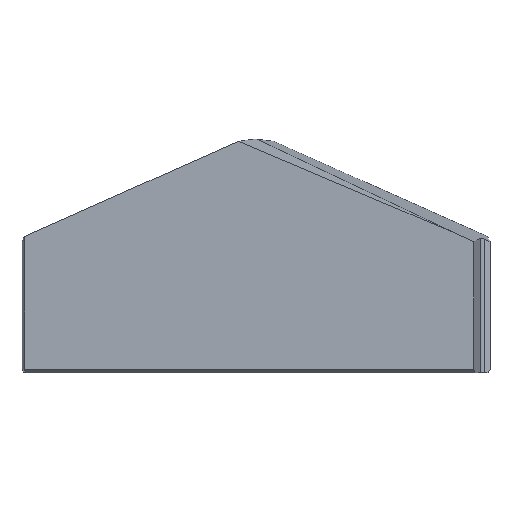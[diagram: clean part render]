
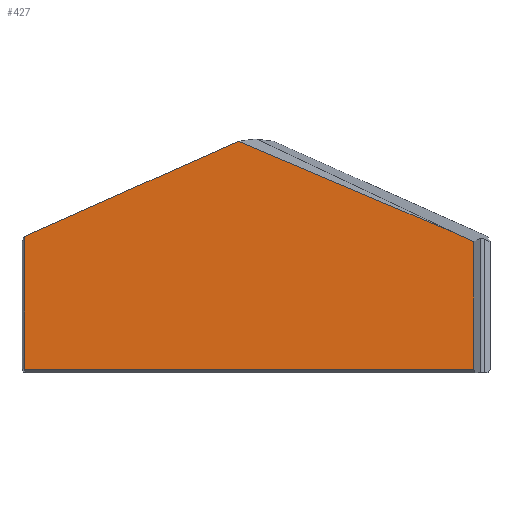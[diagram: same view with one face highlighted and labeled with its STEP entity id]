
A CAD part, top view. The second image highlights one B-rep face of the part: STEP entity #427.
In plain terms, the highlighted planar face has unit normal (0, 0, 1).
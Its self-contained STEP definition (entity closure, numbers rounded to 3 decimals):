
#5 = LINE ( 'NONE', #556, #623 ) ;
#12 = VECTOR ( 'NONE', #320, 1000. ) ;
#13 = CARTESIAN_POINT ( 'NONE',  ( 0., 0., 6.4 ) ) ;
#16 = EDGE_CURVE ( 'NONE', #131, #356, #68, .T. ) ;
#22 = DIRECTION ( 'NONE',  ( -0.914, 0.407, 0. ) ) ;
#30 = VERTEX_POINT ( 'NONE', #221 ) ;
#31 = VERTEX_POINT ( 'NONE', #183 ) ;
#38 = CARTESIAN_POINT ( 'NONE',  ( -20.39, 0.3, 6.4 ) ) ;
#39 = VERTEX_POINT ( 'NONE', #425 ) ;
#46 = DIRECTION ( 'NONE',  ( 1., 0., 0. ) ) ;
#60 = DIRECTION ( 'NONE',  ( 0., 0., 1. ) ) ;
#68 = LINE ( 'NONE', #631, #207 ) ;
#71 = EDGE_CURVE ( 'NONE', #39, #165, #418, .T. ) ;
#81 = ORIENTED_EDGE ( 'NONE', *, *, #16, .F. ) ;
#99 = LINE ( 'NONE', #594, #200 ) ;
#100 = PLANE ( 'NONE',  #504 ) ;
#104 = CARTESIAN_POINT ( 'NONE',  ( 19.19, 0., 6.4 ) ) ;
#127 = EDGE_CURVE ( 'NONE', #165, #356, #135, .T. ) ;
#131 = VERTEX_POINT ( 'NONE', #440 ) ;
#135 = LINE ( 'NONE', #603, #235 ) ;
#141 = ORIENTED_EDGE ( 'NONE', *, *, #383, .T. ) ;
#146 = EDGE_CURVE ( 'NONE', #452, #39, #5, .T. ) ;
#165 = VERTEX_POINT ( 'NONE', #610 ) ;
#176 = ORIENTED_EDGE ( 'NONE', *, *, #414, .T. ) ;
#183 = CARTESIAN_POINT ( 'NONE',  ( -20.384, 0.289, 6.4 ) ) ;
#191 = ORIENTED_EDGE ( 'NONE', *, *, #364, .T. ) ;
#200 = VECTOR ( 'NONE', #46, 1000. ) ;
#207 = VECTOR ( 'NONE', #474, 1000. ) ;
#209 = B_SPLINE_CURVE_WITH_KNOTS ( 'NONE', 3,
 ( #38, #628, #462, #465 ),
 .UNSPECIFIED., .F., .F.,
 ( 4, 4 ),
 ( 0., 0. ),
 .UNSPECIFIED. ) ;
#221 = CARTESIAN_POINT ( 'NONE',  ( 19.19, 0.289, 6.4 ) ) ;
#235 = VECTOR ( 'NONE', #344, 1000. ) ;
#263 = CARTESIAN_POINT ( 'NONE',  ( -20.39, 12.012, 6.4 ) ) ;
#265 = ORIENTED_EDGE ( 'NONE', *, *, #71, .T. ) ;
#271 = DIRECTION ( 'NONE',  ( 0., 1., 0. ) ) ;
#283 = CARTESIAN_POINT ( 'NONE',  ( 19.19, 11.561, 6.4 ) ) ;
#293 = FACE_OUTER_BOUND ( 'NONE', #421, .T. ) ;
#320 = DIRECTION ( 'NONE',  ( -0.921, 0.39, 0. ) ) ;
#344 = DIRECTION ( 'NONE',  ( -0.914, -0.407, 0. ) ) ;
#356 = VERTEX_POINT ( 'NONE', #263 ) ;
#364 = EDGE_CURVE ( 'NONE', #131, #31, #209, .T. ) ;
#383 = EDGE_CURVE ( 'NONE', #30, #452, #430, .T. ) ;
#386 = ORIENTED_EDGE ( 'NONE', *, *, #127, .T. ) ;
#414 = EDGE_CURVE ( 'NONE', #31, #30, #99, .T. ) ;
#418 = LINE ( 'NONE', #526, #12 ) ;
#421 = EDGE_LOOP ( 'NONE', ( #539, #265, #386, #81, #191, #176, #141 ) ) ;
#425 = CARTESIAN_POINT ( 'NONE',  ( 17.458, 12.333, 6.4 ) ) ;
#427 = ADVANCED_FACE ( 'NONE', ( #293 ), #100, .T. ) ;
#430 = LINE ( 'NONE', #104, #576 ) ;
#440 = CARTESIAN_POINT ( 'NONE',  ( -20.39, 0.3, 6.4 ) ) ;
#452 = VERTEX_POINT ( 'NONE', #283 ) ;
#462 = CARTESIAN_POINT ( 'NONE',  ( -20.386, 0.292, 6.4 ) ) ;
#465 = CARTESIAN_POINT ( 'NONE',  ( -20.384, 0.289, 6.4 ) ) ;
#474 = DIRECTION ( 'NONE',  ( 0., 1., 0. ) ) ;
#504 = AXIS2_PLACEMENT_3D ( 'NONE', #13, #60, #582 ) ;
#526 = CARTESIAN_POINT ( 'NONE',  ( 7.094, 16.728, 6.4 ) ) ;
#539 = ORIENTED_EDGE ( 'NONE', *, *, #146, .T. ) ;
#556 = CARTESIAN_POINT ( 'NONE',  ( 7.471, 16.779, 6.4 ) ) ;
#576 = VECTOR ( 'NONE', #271, 1000. ) ;
#582 = DIRECTION ( 'NONE',  ( 1., 0., 0. ) ) ;
#594 = CARTESIAN_POINT ( 'NONE',  ( 20.215, 0.289, 6.4 ) ) ;
#603 = CARTESIAN_POINT ( 'NONE',  ( 0., 21.09, 6.4 ) ) ;
#610 = CARTESIAN_POINT ( 'NONE',  ( -1.557, 20.397, 6.4 ) ) ;
#623 = VECTOR ( 'NONE', #22, 1000. ) ;
#628 = CARTESIAN_POINT ( 'NONE',  ( -20.388, 0.296, 6.4 ) ) ;
#631 = CARTESIAN_POINT ( 'NONE',  ( -20.39, 0., 6.4 ) ) ;
